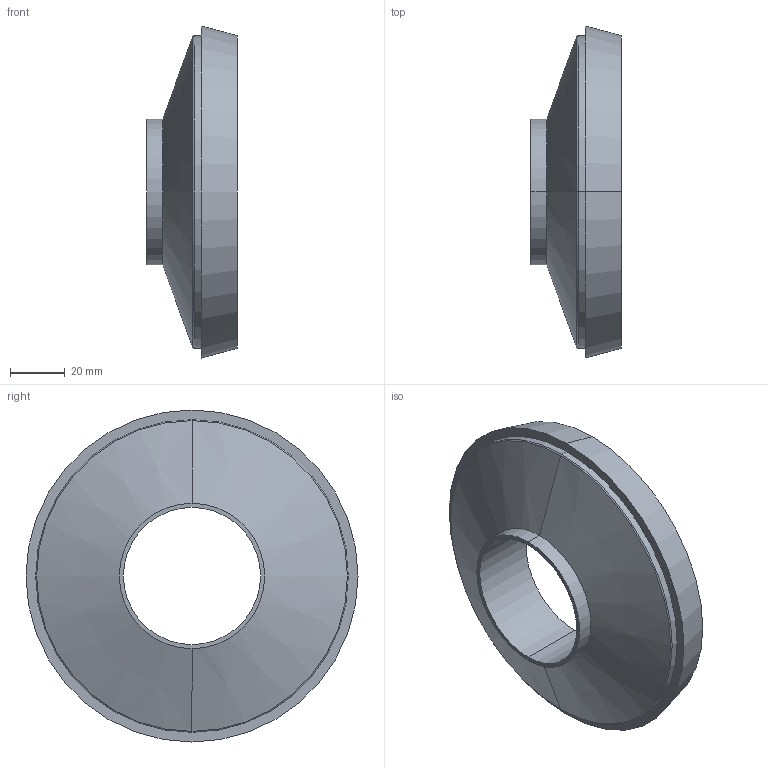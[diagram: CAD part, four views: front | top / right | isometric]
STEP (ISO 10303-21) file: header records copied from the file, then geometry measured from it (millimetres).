
FILE_DESCRIPTION (( 'STEP AP203' ), '1' );
FILE_NAME ('3D-M2024P_100-50_174211175.STEP', '2024-09-06T10:05:04', ( '' ), ( '' ), 'SwSTEP 2.0', 'SolidWorks 2024', '' );
FILE_SCHEMA (( 'CONFIG_CONTROL_DESIGN' ));
Length unit declared in the file: millimetre
Products named in the file (1): 3D-M2024P_100-50_174211175
Bounding box: 33 x 121 x 121 mm (x, y, z)
Volume: 160274.5 mm3; surface area: 29429 mm2
Topology: 1 solids, 1 shells, 17 faces, 34 edges, 20 vertices
Faces by surface type: cone 6, cylinder 6, plane 3, torus 2
Entity records: 527 total; most frequent: DIRECTION 92, CARTESIAN_POINT 72, ORIENTED_EDGE 68, AXIS2_PLACEMENT_3D 40, EDGE_CURVE 34, CIRCLE 22, EDGE_LOOP 20, VERTEX_POINT 20
